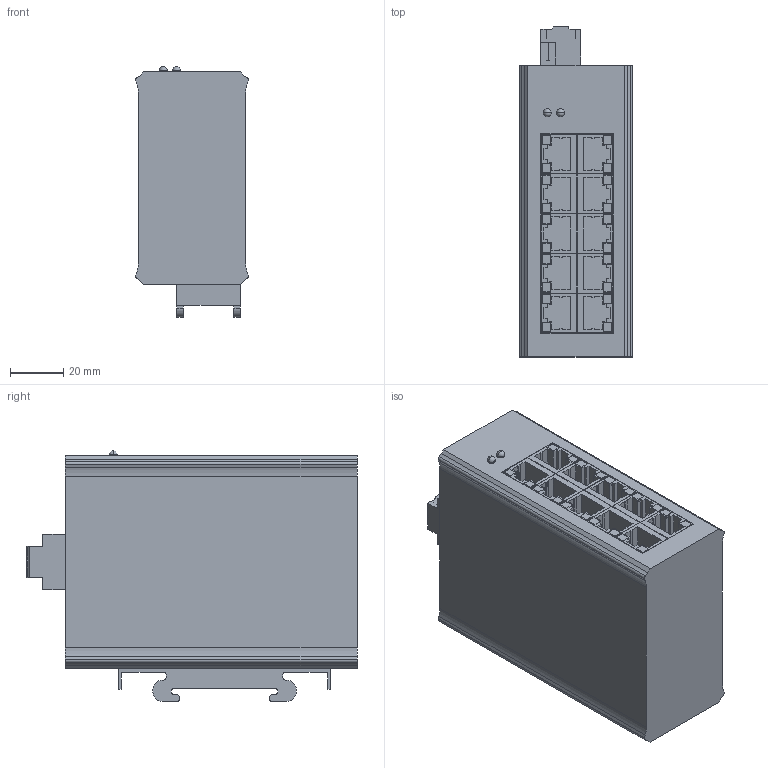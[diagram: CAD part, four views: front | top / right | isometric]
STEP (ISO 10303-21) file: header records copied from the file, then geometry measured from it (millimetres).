
FILE_DESCRIPTION (( 'STEP AP214' ), '1' );
FILE_NAME ('ODOT-MS108T.STEP', '2023-07-13T05:55:10', ( '' ), ( '' ), 'SwSTEP 2.0', 'SolidWorks 2021', '' );
FILE_SCHEMA (( 'AUTOMOTIVE_DESIGN' ));
Length unit declared in the file: millimetre
Products named in the file (1): ODOT-MS108T
Bounding box: 42.5 x 124.5 x 94.5 mm (x, y, z)
Volume: 353560.3 mm3; surface area: 43710.5 mm2
Topology: 1 solids, 1 shells, 711 faces, 1891 edges, 1258 vertices
Faces by surface type: plane 637, cylinder 58, cone 12, sphere 4
Entity records: 21731 total; most frequent: CARTESIAN_POINT 3849, ORIENTED_EDGE 3766, DIRECTION 3459, EDGE_CURVE 1883, LINE 1731, VECTOR 1731, VERTEX_POINT 1254, AXIS2_PLACEMENT_3D 864
